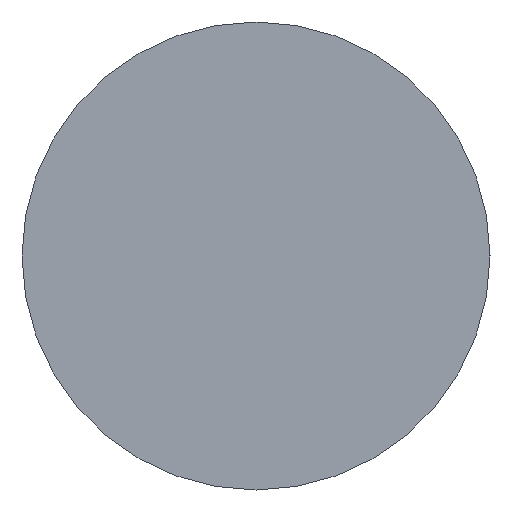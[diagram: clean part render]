
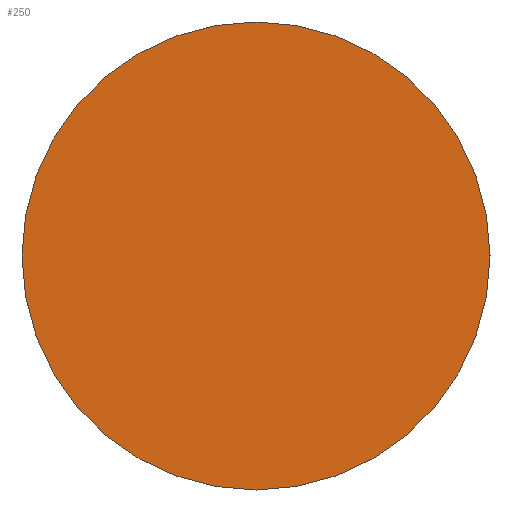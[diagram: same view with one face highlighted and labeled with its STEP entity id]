
A CAD part, left-side view. The second image highlights one B-rep face of the part: STEP entity #250.
In plain terms, the highlighted planar face has unit normal (-1, 0, 0).
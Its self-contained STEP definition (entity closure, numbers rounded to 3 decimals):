
#9 = FACE_OUTER_BOUND ( 'NONE', #158, .T. ) ;
#47 = ORIENTED_EDGE ( 'NONE', *, *, #105, .F. ) ;
#67 = DIRECTION ( 'NONE',  ( 1., 0., 0. ) ) ;
#76 = AXIS2_PLACEMENT_3D ( 'NONE', #211, #67, #209 ) ;
#96 = DIRECTION ( 'NONE',  ( 0., 1., 0. ) ) ;
#105 = EDGE_CURVE ( 'NONE', #128, #254, #186, .T. ) ;
#128 = VERTEX_POINT ( 'NONE', #202 ) ;
#147 = CARTESIAN_POINT ( 'NONE',  ( 0., 0., 0. ) ) ;
#153 = EDGE_CURVE ( 'NONE', #254, #128, #164, .T. ) ;
#156 = ORIENTED_EDGE ( 'NONE', *, *, #153, .F. ) ;
#158 = EDGE_LOOP ( 'NONE', ( #47, #156 ) ) ;
#161 = DIRECTION ( 'NONE',  ( 1., 0., 0. ) ) ;
#164 = CIRCLE ( 'NONE', #76, 2. ) ;
#186 = CIRCLE ( 'NONE', #263, 2. ) ;
#194 = DIRECTION ( 'NONE',  ( 0., -1., 0. ) ) ;
#202 = CARTESIAN_POINT ( 'NONE',  ( 0., 2., 0. ) ) ;
#206 = CARTESIAN_POINT ( 'NONE',  ( 0., 0., 0. ) ) ;
#209 = DIRECTION ( 'NONE',  ( 0., 1., 0. ) ) ;
#211 = CARTESIAN_POINT ( 'NONE',  ( 0., 0., 0. ) ) ;
#228 = AXIS2_PLACEMENT_3D ( 'NONE', #147, #232, #194 ) ;
#232 = DIRECTION ( 'NONE',  ( -1., 0., 0. ) ) ;
#233 = PLANE ( 'NONE',  #228 ) ;
#250 = ADVANCED_FACE ( 'NONE', ( #9 ), #233, .T. ) ;
#254 = VERTEX_POINT ( 'NONE', #261 ) ;
#261 = CARTESIAN_POINT ( 'NONE',  ( 0., -2., 0. ) ) ;
#263 = AXIS2_PLACEMENT_3D ( 'NONE', #206, #161, #96 ) ;
